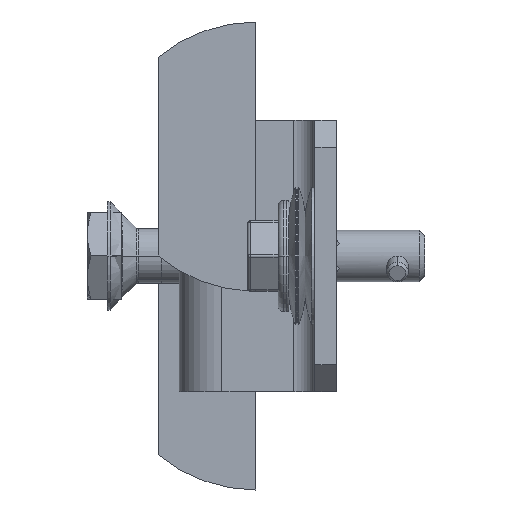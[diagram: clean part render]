
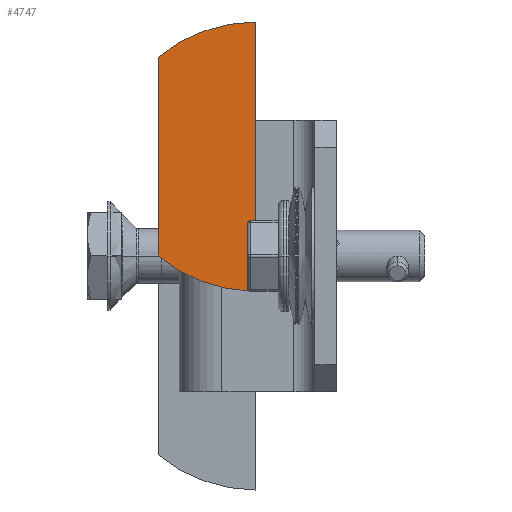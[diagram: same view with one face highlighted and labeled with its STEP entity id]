
A CAD part, left-side view. The second image highlights one B-rep face of the part: STEP entity #4747.
In plain terms, the highlighted planar face has unit normal (-1, 0, 0) as drawn and (0, -1, 0) by its records, which use the part's own axes.
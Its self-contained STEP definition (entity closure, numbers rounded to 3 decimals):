
#3323=DIRECTION('',(-1.,0.,0.));
#3324=VECTOR('',#3323,11.982);
#3325=CARTESIAN_POINT('',(5.982,-1.25,-7.6));
#3326=LINE('',#3325,#3324);
#3623=CARTESIAN_POINT('',(5.982,-1.25,-7.1));
#3624=DIRECTION('',(0.,1.,0.));
#3625=DIRECTION('',(0.999,0.,-0.036));
#3626=AXIS2_PLACEMENT_3D('',#3623,#3624,#3625);
#3631=CARTESIAN_POINT('',(-21.673,-1.25,-6.1));
#3632=DIRECTION('',(0.,1.,0.));
#3633=DIRECTION('',(0.999,0.,-0.036));
#3634=AXIS2_PLACEMENT_3D('',#3631,#3632,#3633);
#3639=CARTESIAN_POINT('',(-14.927,-1.25,-6.1));
#3640=DIRECTION('',(0.,-1.,0.));
#3641=DIRECTION('',(-1.,0.,0.));
#3642=AXIS2_PLACEMENT_3D('',#3639,#3640,#3641);
#3682=DIRECTION('',(0.,0.,1.));
#3683=VECTOR('',#3682,1.);
#3684=CARTESIAN_POINT('',(-6.5,-1.25,-7.1));
#3685=LINE('',#3684,#3683);
#3795=CARTESIAN_POINT('',(-6.,-1.25,-7.1));
#3796=DIRECTION('',(0.,1.,0.));
#3797=DIRECTION('',(0.,0.,-1.));
#3798=AXIS2_PLACEMENT_3D('',#3795,#3796,#3797);
#3817=DIRECTION('',(-1.,0.,0.));
#3818=VECTOR('',#3817,36.6);
#3819=CARTESIAN_POINT('',(-6.5,-1.25,-6.1));
#3820=LINE('',#3819,#3818);
#3845=DIRECTION('',(-1.,0.,0.));
#3846=VECTOR('',#3845,36.6);
#3847=CARTESIAN_POINT('',(0.,-1.25,-24.1));
#3848=LINE('',#3847,#3846);
#4021=CARTESIAN_POINT('',(-6.5,-1.25,-6.1));
#4023=VERTEX_POINT('',#4021);
#4025=CARTESIAN_POINT('',(-43.1,-1.25,-6.1));
#4027=VERTEX_POINT('',#4025);
#4029=CARTESIAN_POINT('',(0.,-1.25,-24.1));
#4031=VERTEX_POINT('',#4029);
#4033=CARTESIAN_POINT('',(-36.6,-1.25,-24.1));
#4035=VERTEX_POINT('',#4033);
#4095=CARTESIAN_POINT('',(-6.5,-1.25,-7.1));
#4097=VERTEX_POINT('',#4095);
#4099=CARTESIAN_POINT('',(-6.,-1.25,-7.6));
#4101=VERTEX_POINT('',#4099);
#4116=CARTESIAN_POINT('',(5.982,-1.25,-7.6));
#4117=VERTEX_POINT('',#4116);
#4118=CARTESIAN_POINT('',(6.482,-1.25,-7.118));
#4119=VERTEX_POINT('',#4118);
#4727=CARTESIAN_POINT('',(6.5,-1.25,-6.1));
#4728=DIRECTION('',(0.,-1.,0.));
#4729=DIRECTION('',(-1.,0.,0.));
#4730=AXIS2_PLACEMENT_3D('',#4727,#4728,#4729);
#4731=PLANE('',#4730);
#4733=ORIENTED_EDGE('',*,*,#4732,.F.);
#4735=ORIENTED_EDGE('',*,*,#4734,.F.);
#4736=ORIENTED_EDGE('',*,*,#4398,.F.);
#4737=ORIENTED_EDGE('',*,*,#4722,.F.);
#4738=ORIENTED_EDGE('',*,*,#4428,.T.);
#4740=ORIENTED_EDGE('',*,*,#4739,.T.);
#4742=ORIENTED_EDGE('',*,*,#4741,.F.);
#4744=ORIENTED_EDGE('',*,*,#4743,.F.);
#4745=EDGE_LOOP('',(#4733,#4735,#4736,#4737,#4738,#4740,#4742,#4744));
#4746=FACE_OUTER_BOUND('',#4745,.F.);
#3627=CIRCLE('',#3626,0.5);
#3635=CIRCLE('',#3634,28.173);
#3643=CIRCLE('',#3642,28.173);
#3799=CIRCLE('',#3798,0.5);
#4398=EDGE_CURVE('',#4117,#4101,#3326,.T.);
#4428=EDGE_CURVE('',#4119,#4031,#3635,.T.);
#4722=EDGE_CURVE('',#4119,#4117,#3627,.T.);
#4732=EDGE_CURVE('',#4097,#4023,#3685,.T.);
#4734=EDGE_CURVE('',#4101,#4097,#3799,.T.);
#4739=EDGE_CURVE('',#4031,#4035,#3848,.T.);
#4741=EDGE_CURVE('',#4027,#4035,#3643,.T.);
#4743=EDGE_CURVE('',#4023,#4027,#3820,.T.);
#4747=ADVANCED_FACE('',(#4746),#4731,.T.);
